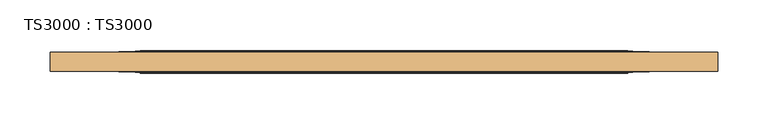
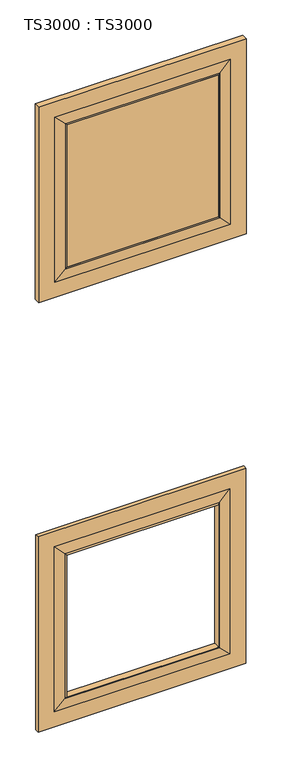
"""IFC4 building model written with IfcOpenShell, lengths in millimetres: door geometry, TS3000 : TS3000."""

from ifc_helpers import new_model, si_unit, frame, origin, place, context, project, spatial, polyline, ellipse_curve, outline, extrude, source, transform, mapped, element, save
from ifc_brep_helpers import plane_surface, revolved_surface, advanced_brep


def ts3000_ts3000_fb004bbc(model_context):
    return source(origin(), model_context, "Body", "SolidModel", [
        advanced_brep(
        [(787.4, 12.7, 2311.4), (787.4, 12.7, 1655.2333333), (787.4, 31.75, 1655.2333333), (787.4, 31.75, 2311.4), (698.5, 33.3375, 2222.5), (698.5, 33.3375, 1744.1333333), (698.5, 11.1125, 1744.1333333), (698.5, 11.1125, 2222.5), (127.0, 12.7, 1655.2333333), (127.0, 31.75, 1655.2333333), (215.9, 33.3375, 1744.1333333), (215.9, 11.1125, 1744.1333333), (127.0, 12.7, 2311.4), (127.0, 31.75, 2311.4), (215.9, 33.3375, 2222.5), (215.9, 11.1125, 2222.5), (736.6, 31.75, 1706.0333333), (736.6, 31.75, 2260.6), (177.8, 31.75, 2260.6), (177.8, 31.75, 1706.0333333), (736.6, 12.7, 2260.6), (736.6, 12.7, 1706.0333333), (177.8, 12.7, 1706.0333333), (177.8, 12.7, 2260.6), (703.2625, 32.54375, 1739.3708333), (703.2625, 32.54375, 2227.2625), (211.1375, 32.54375, 1739.3708333), (211.1375, 32.54375, 2227.2625), (703.2625, 11.90625, 2227.2625), (703.2625, 11.90625, 1739.3708333), (211.1375, 11.90625, 1739.3708333), (211.1375, 11.90625, 2227.2625)],
        [
            (0, 1),
            (1, 2),
            (2, 3),
            (3, 0),
            (4, 5),
            (5, 6),
            (6, 7),
            (7, 4),
            (1, 8),
            (8, 9),
            (9, 2),
            (5, 10),
            (10, 11),
            (11, 6),
            (8, 12),
            (12, 13),
            (13, 9),
            (10, 14),
            (14, 15),
            (15, 11),
            (13, 3),
            (16, 17),
            (17, 18),
            (18, 19),
            (19, 16),
            (12, 0),
            (20, 21),
            (21, 22),
            (22, 23),
            (23, 20),
            (14, 4),
            (7, 15),
            (16, 24),
            (24, 25),
            (25, 17),
            (19, 26),
            (26, 24),
            (18, 27),
            (27, 26),
            (25, 27),
            (28, 29),
            (29, 21),
            (20, 28),
            (6, 29, ellipse_curve(frame((703.7585938, -5.7546875, 1738.8747396), z_axis=(-0.7071067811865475, 0.0, -0.7071067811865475), x_axis=(0.7071067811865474, 0.0, -0.7071067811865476)), 24.9861891, 17.6679037)),
            (28, 7, ellipse_curve(frame((703.7585938, -5.7546875, 2227.7585938), z_axis=(-0.7071067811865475, 0.0, 0.7071067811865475), x_axis=(-0.7071067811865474, 0.0, -0.7071067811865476)), 24.9861891, 17.6679037)),
            (24, 5, ellipse_curve(frame((703.7585938, 50.2046875, 1738.8747396), z_axis=(-0.7071067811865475, 0.0, -0.7071067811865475), x_axis=(0.7071067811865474, 0.0, -0.7071067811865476)), 24.9861891, 17.6679037)),
            (4, 25, ellipse_curve(frame((703.7585938, 50.2046875, 2227.7585938), z_axis=(-0.7071067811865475, 0.0, 0.7071067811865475), x_axis=(-0.7071067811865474, 0.0, -0.7071067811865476)), 24.9861891, 17.6679037)),
            (29, 30),
            (30, 22),
            (11, 30, ellipse_curve(frame((210.6414063, -5.7546875, 1738.8747396), z_axis=(-0.7071067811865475, 0.0, 0.7071067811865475), x_axis=(-0.7071067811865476, 0.0, -0.7071067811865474)), 24.9861891, 17.6679037)),
            (26, 10, ellipse_curve(frame((210.6414063, 50.2046875, 1738.8747396), z_axis=(-0.7071067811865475, 0.0, 0.7071067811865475), x_axis=(-0.7071067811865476, 0.0, -0.7071067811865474)), 24.9861891, 17.6679037)),
            (30, 31),
            (31, 23),
            (15, 31, ellipse_curve(frame((210.6414063, -5.7546875, 2227.7585938), z_axis=(0.7071067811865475, 0.0, 0.7071067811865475), x_axis=(-0.7071067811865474, 0.0, 0.7071067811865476)), 24.9861891, 17.6679037)),
            (27, 14, ellipse_curve(frame((210.6414063, 50.2046875, 2227.7585938), z_axis=(0.7071067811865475, 0.0, 0.7071067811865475), x_axis=(-0.7071067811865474, 0.0, 0.7071067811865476)), 24.9861891, 17.6679037)),
            (31, 28),
        ],
        [
            plane_surface(frame((787.4, 31.75, 2311.4), z_axis=(1.0, 0.0, 0.0), x_axis=(0.0, 0.0, -1.0))),
            plane_surface(frame((698.5, 11.1125, 2222.5), z_axis=(-1.0, 0.0, 0.0), x_axis=(0.0, 0.0, -1.0))),
            plane_surface(frame((787.4, 31.75, 1655.2333333), z_axis=(0.0, 0.0, -1.0), x_axis=(-1.0, 0.0, 0.0))),
            plane_surface(frame((698.5, 11.1125, 1744.1333333), z_axis=(0.0, 0.0, 1.0), x_axis=(-1.0, 0.0, 0.0))),
            plane_surface(frame((127.0, 31.75, 1655.2333333), z_axis=(-1.0, 0.0, 0.0), x_axis=(0.0, 0.0, 1.0))),
            plane_surface(frame((215.9, 11.1125, 1744.1333333), z_axis=(1.0, 0.0, 0.0), x_axis=(0.0, 0.0, 1.0))),
            plane_surface(frame((177.8, 31.75, 2260.6), z_axis=(0.0, 1.0, 0.0), x_axis=(1.0, 0.0, 0.0))),
            plane_surface(frame((127.0, 31.75, 2311.4), z_axis=(0.0, 0.0, 1.0), x_axis=(1.0, 0.0, 0.0))),
            plane_surface(frame((127.0, 12.7, 2311.4), z_axis=(0.0, -1.0, 0.0), x_axis=(1.0, 0.0, 0.0))),
            plane_surface(frame((215.9, 11.1125, 2222.5), z_axis=(0.0, 0.0, -1.0), x_axis=(1.0, 0.0, 0.0))),
            plane_surface(frame((703.2625, 32.54375, 2227.2625), z_axis=(0.023802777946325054, 0.9997166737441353, 0.0), x_axis=(0.0, 0.0, -1.0))),
            plane_surface(frame((703.2625, 32.54375, 1739.3708333), z_axis=(0.0, 0.9997166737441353, -0.02380277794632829), x_axis=(-1.0, 0.0, 0.0))),
            plane_surface(frame((211.1375, 32.54375, 1739.3708333), z_axis=(-0.023802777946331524, 0.9997166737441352, 0.0), x_axis=(0.0, 0.0, 1.0))),
            plane_surface(frame((211.1375, 32.54375, 2227.2625), z_axis=(0.0, 0.9997166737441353, 0.02380277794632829), x_axis=(1.0, 0.0, 0.0))),
            plane_surface(frame((736.6, 12.7, 2260.6), z_axis=(0.023802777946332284, -0.9997166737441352, 0.0), x_axis=(0.0, 0.0, -1.0))),
            revolved_surface(polyline([(686.0906901, -5.7546875, 1721.2068358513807), (686.0906901, -5.7546875, 2245.4264975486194)]), (703.7585938, -5.7546875, 2222.5), (0.0, 0.0, -1.0)),
            revolved_surface(polyline([(686.0906901, 50.2046875, 1721.2068358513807), (686.0906901, 50.2046875, 2245.4264975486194)]), (703.7585938, 50.2046875, 2222.5), (0.0, 0.0, -1.0)),
            plane_surface(frame((736.6, 12.7, 1706.0333333), z_axis=(0.0, -0.9997166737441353, -0.02380277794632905), x_axis=(-1.0, 0.0, 0.0))),
            revolved_surface(polyline([(192.9735025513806, -5.7546875, 1756.5426433), (721.4264975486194, -5.7546875, 1756.5426433)]), (698.5, -5.7546875, 1738.8747396), (-1.0, 0.0, 0.0)),
            revolved_surface(polyline([(192.9735025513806, 50.2046875, 1756.5426433), (721.4264975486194, 50.2046875, 1756.5426433)]), (698.5, 50.2046875, 1738.8747396), (-1.0, 0.0, 0.0)),
            plane_surface(frame((177.8, 12.7, 1706.0333333), z_axis=(-0.023802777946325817, -0.9997166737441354, 0.0), x_axis=(0.0, 0.0, 1.0))),
            revolved_surface(polyline([(228.30931, -5.7546875, 2245.4264975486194), (228.30931, -5.7546875, 1721.2068358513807)]), (210.6414063, -5.7546875, 1744.1333333), (0.0, 0.0, 1.0)),
            revolved_surface(polyline([(228.30931, 50.2046875, 2245.4264975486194), (228.30931, 50.2046875, 1721.2068358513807)]), (210.6414063, 50.2046875, 1744.1333333), (0.0, 0.0, 1.0)),
            plane_surface(frame((177.8, 12.7, 2260.6), z_axis=(0.0, -0.9997166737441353, 0.02380277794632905), x_axis=(1.0, 0.0, 0.0))),
            revolved_surface(polyline([(721.4264975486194, -5.7546875, 2210.0906901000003), (192.9735025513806, -5.7546875, 2210.0906901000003)]), (215.9, -5.7546875, 2227.7585938), (1.0, 0.0, 0.0)),
            revolved_surface(polyline([(721.4264975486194, 50.2046875, 2210.0906901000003), (192.9735025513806, 50.2046875, 2210.0906901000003)]), (215.9, 50.2046875, 2227.7585938), (1.0, 0.0, 0.0)),
        ],
        [
            (0, [[1, 2, 3, 4]]),
            (1, [[5, 6, 7, 8]]),
            (2, [[9, 10, 11, -2]]),
            (3, [[12, 13, 14, -6]]),
            (4, [[15, 16, 17, -10]]),
            (5, [[18, 19, 20, -13]]),
            (6, [[-3, -11, -17, 21], [22, 23, 24, 25]]),
            (7, [[26, -4, -21, -16]]),
            (8, [[-1, -26, -15, -9], [27, 28, 29, 30]]),
            (9, [[31, -8, 32, -19]]),
            (10, [[-22, 33, 34, 35]]),
            (11, [[-25, 36, 37, -33]]),
            (12, [[-24, 38, 39, -36]]),
            (13, [[-23, -35, 40, -38]]),
            (14, [[41, 42, -27, 43]]),
            (15, [[-7, 44, -41, 45]]),
            (16, [[-34, 46, -5, 47]]),
            (17, [[48, 49, -28, -42]]),
            (18, [[-14, 50, -48, -44]]),
            (19, [[-37, 51, -12, -46]]),
            (20, [[52, 53, -29, -49]]),
            (21, [[-20, 54, -52, -50]]),
            (22, [[-39, 55, -18, -51]]),
            (23, [[56, -43, -30, -53]]),
            (24, [[-32, -45, -56, -54]]),
            (25, [[-40, -47, -31, -55]]),
        ],
    ),
        advanced_brep(
        [(787.4, 15.875, 865.7166667), (787.4, 15.875, 209.55), (787.4, 28.575, 209.55), (787.4, 28.575, 865.7166667), (698.5, 33.3375, 776.8166667), (698.5, 33.3375, 298.45), (698.5, 11.1125, 298.45), (698.5, 11.1125, 776.8166667), (127.0, 15.875, 209.55), (127.0, 28.575, 209.55), (215.9, 33.3375, 298.45), (215.9, 11.1125, 298.45), (127.0, 15.875, 865.7166667), (127.0, 28.575, 865.7166667), (215.9, 33.3375, 776.8166667), (215.9, 11.1125, 776.8166667), (736.6, 28.575, 260.35), (736.6, 28.575, 814.9166667), (177.8, 28.575, 814.9166667), (177.8, 28.575, 260.35), (736.6, 15.875, 814.9166667), (736.6, 15.875, 260.35), (177.8, 15.875, 260.35), (177.8, 15.875, 814.9166667), (703.2625, 30.95625, 293.6875), (703.2625, 30.95625, 781.5791667), (211.1375, 30.95625, 293.6875), (211.1375, 30.95625, 781.5791667), (703.2625, 13.49375, 781.5791667), (703.2625, 13.49375, 293.6875), (211.1375, 13.49375, 293.6875), (211.1375, 13.49375, 781.5791667)],
        [
            (0, 1),
            (1, 2),
            (2, 3),
            (3, 0),
            (4, 5),
            (5, 6),
            (6, 7),
            (7, 4),
            (1, 8),
            (8, 9),
            (9, 2),
            (5, 10),
            (10, 11),
            (11, 6),
            (8, 12),
            (12, 13),
            (13, 9),
            (10, 14),
            (14, 15),
            (15, 11),
            (13, 3),
            (16, 17),
            (17, 18),
            (18, 19),
            (19, 16),
            (12, 0),
            (20, 21),
            (21, 22),
            (22, 23),
            (23, 20),
            (14, 4),
            (7, 15),
            (16, 24),
            (24, 25),
            (25, 17),
            (19, 26),
            (26, 24),
            (18, 27),
            (27, 26),
            (25, 27),
            (28, 29),
            (29, 21),
            (20, 28),
            (6, 29, ellipse_curve(frame((703.7585938, 6.5484375, 293.1914062), z_axis=(-0.7071067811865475, 0.0, -0.7071067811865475), x_axis=(0.7071067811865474, 0.0, -0.7071067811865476)), 9.8471798, 6.9630076)),
            (28, 7, ellipse_curve(frame((703.7585938, 6.5484375, 782.0752604), z_axis=(-0.7071067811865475, 0.0, 0.7071067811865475), x_axis=(-0.7071067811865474, 0.0, -0.7071067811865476)), 9.8471798, 6.9630076)),
            (24, 5, ellipse_curve(frame((703.7585938, 37.9015625, 293.1914062), z_axis=(-0.7071067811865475, 0.0, -0.7071067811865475), x_axis=(0.7071067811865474, 0.0, -0.7071067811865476)), 9.8471798, 6.9630076)),
            (4, 25, ellipse_curve(frame((703.7585938, 37.9015625, 782.0752604), z_axis=(-0.7071067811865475, 0.0, 0.7071067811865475), x_axis=(-0.7071067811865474, 0.0, -0.7071067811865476)), 9.8471798, 6.9630076)),
            (29, 30),
            (30, 22),
            (11, 30, ellipse_curve(frame((210.6414063, 6.5484375, 293.1914062), z_axis=(-0.7071067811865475, 0.0, 0.7071067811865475), x_axis=(-0.7071067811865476, 0.0, -0.7071067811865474)), 9.8471798, 6.9630076)),
            (26, 10, ellipse_curve(frame((210.6414063, 37.9015625, 293.1914062), z_axis=(-0.7071067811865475, 0.0, 0.7071067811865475), x_axis=(-0.7071067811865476, 0.0, -0.7071067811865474)), 9.8471798, 6.9630076)),
            (30, 31),
            (31, 23),
            (15, 31, ellipse_curve(frame((210.6414063, 6.5484375, 782.0752604), z_axis=(0.7071067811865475, 0.0, 0.7071067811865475), x_axis=(-0.7071067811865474, 0.0, 0.7071067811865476)), 9.8471798, 6.9630076)),
            (27, 14, ellipse_curve(frame((210.6414063, 37.9015625, 782.0752604), z_axis=(0.7071067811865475, 0.0, 0.7071067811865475), x_axis=(-0.7071067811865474, 0.0, 0.7071067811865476)), 9.8471798, 6.9630076)),
            (31, 28),
        ],
        [
            plane_surface(frame((787.4, 28.575, 865.7166667), z_axis=(1.0, 0.0, 0.0), x_axis=(0.0, 0.0, -1.0))),
            plane_surface(frame((698.5, 11.1125, 776.8166667), z_axis=(-1.0, 0.0, 0.0), x_axis=(0.0, 0.0, -1.0))),
            plane_surface(frame((787.4, 28.575, 209.55), z_axis=(0.0, 0.0, -1.0), x_axis=(-1.0, 0.0, 0.0))),
            plane_surface(frame((698.5, 11.1125, 298.45), z_axis=(0.0, 0.0, 1.0), x_axis=(-1.0, 0.0, 0.0))),
            plane_surface(frame((127.0, 28.575, 209.55), z_axis=(-1.0, 0.0, 0.0), x_axis=(0.0, 0.0, 1.0))),
            plane_surface(frame((215.9, 11.1125, 298.45), z_axis=(1.0, 0.0, 0.0), x_axis=(0.0, 0.0, 1.0))),
            plane_surface(frame((177.8, 28.575, 814.9166667), z_axis=(0.0, 1.0, 0.0), x_axis=(1.0, 0.0, 0.0))),
            plane_surface(frame((127.0, 28.575, 865.7166667), z_axis=(0.0, 0.0, 1.0), x_axis=(1.0, 0.0, 0.0))),
            plane_surface(frame((127.0, 15.875, 865.7166667), z_axis=(0.0, -1.0, 0.0), x_axis=(1.0, 0.0, 0.0))),
            plane_surface(frame((215.9, 11.1125, 776.8166667), z_axis=(0.0, 0.0, -1.0), x_axis=(1.0, 0.0, 0.0))),
            plane_surface(frame((703.2625, 30.95625, 781.5791667), z_axis=(0.07124704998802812, 0.9974586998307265, 0.0), x_axis=(0.0, 0.0, -1.0))),
            plane_surface(frame((703.2625, 30.95625, 293.6875), z_axis=(0.0, 0.9974586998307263, -0.07124704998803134), x_axis=(-1.0, 0.0, 0.0))),
            plane_surface(frame((211.1375, 30.95625, 293.6875), z_axis=(-0.07124704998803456, 0.9974586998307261, 0.0), x_axis=(0.0, 0.0, 1.0))),
            plane_surface(frame((211.1375, 30.95625, 781.5791667), z_axis=(0.0, 0.9974586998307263, 0.07124704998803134), x_axis=(1.0, 0.0, 0.0))),
            plane_surface(frame((736.6, 15.875, 814.9166667), z_axis=(0.07124704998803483, -0.9974586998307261, 0.0), x_axis=(0.0, 0.0, -1.0))),
            revolved_surface(polyline([(696.7955862, 6.5484375, 286.2283985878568), (696.7955862, 6.5484375, 789.0382680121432)]), (703.7585938, 6.5484375, 776.8166667), (0.0, 0.0, -1.0)),
            revolved_surface(polyline([(696.7955862, 37.9015625, 286.2283985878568), (696.7955862, 37.9015625, 789.0382680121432)]), (703.7585938, 37.9015625, 776.8166667), (0.0, 0.0, -1.0)),
            plane_surface(frame((736.6, 15.875, 260.35), z_axis=(0.0, -0.9974586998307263, -0.07124704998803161), x_axis=(-1.0, 0.0, 0.0))),
            revolved_surface(polyline([(203.67839868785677, 6.5484375, 300.15441380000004), (710.7216014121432, 6.5484375, 300.15441380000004)]), (698.5, 6.5484375, 293.1914062), (-1.0, 0.0, 0.0)),
            revolved_surface(polyline([(203.67839868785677, 37.9015625, 300.15441380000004), (710.7216014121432, 37.9015625, 300.15441380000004)]), (698.5, 37.9015625, 293.1914062), (-1.0, 0.0, 0.0)),
            plane_surface(frame((177.8, 15.875, 260.35), z_axis=(-0.07124704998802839, -0.9974586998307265, 0.0), x_axis=(0.0, 0.0, 1.0))),
            revolved_surface(polyline([(217.6044139, 6.5484375, 789.0382680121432), (217.6044139, 6.5484375, 286.2283985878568)]), (210.6414063, 6.5484375, 298.45), (0.0, 0.0, 1.0)),
            revolved_surface(polyline([(217.6044139, 37.9015625, 789.0382680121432), (217.6044139, 37.9015625, 286.2283985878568)]), (210.6414063, 37.9015625, 298.45), (0.0, 0.0, 1.0)),
            plane_surface(frame((177.8, 15.875, 814.9166667), z_axis=(0.0, -0.9974586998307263, 0.07124704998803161), x_axis=(1.0, 0.0, 0.0))),
            revolved_surface(polyline([(710.7216014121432, 6.5484375, 775.1122528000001), (203.6783986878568, 6.5484375, 775.1122528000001)]), (215.9, 6.5484375, 782.0752604), (1.0, 0.0, 0.0)),
            revolved_surface(polyline([(710.7216014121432, 37.9015625, 775.1122528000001), (203.6783986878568, 37.9015625, 775.1122528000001)]), (215.9, 37.9015625, 782.0752604), (1.0, 0.0, 0.0)),
        ],
        [
            (0, [[1, 2, 3, 4]]),
            (1, [[5, 6, 7, 8]]),
            (2, [[9, 10, 11, -2]]),
            (3, [[12, 13, 14, -6]]),
            (4, [[15, 16, 17, -10]]),
            (5, [[18, 19, 20, -13]]),
            (6, [[-3, -11, -17, 21], [22, 23, 24, 25]]),
            (7, [[26, -4, -21, -16]]),
            (8, [[-1, -26, -15, -9], [27, 28, 29, 30]]),
            (9, [[31, -8, 32, -19]]),
            (10, [[-22, 33, 34, 35]]),
            (11, [[-25, 36, 37, -33]]),
            (12, [[-24, 38, 39, -36]]),
            (13, [[-23, -35, 40, -38]]),
            (14, [[41, 42, -27, 43]]),
            (15, [[-7, 44, -41, 45]]),
            (16, [[-34, 46, -5, 47]]),
            (17, [[48, 49, -28, -42]]),
            (18, [[-14, 50, -48, -44]]),
            (19, [[-37, 51, -12, -46]]),
            (20, [[52, 53, -29, -49]]),
            (21, [[-20, 54, -52, -50]]),
            (22, [[-39, 55, -18, -51]]),
            (23, [[56, -43, -30, -53]]),
            (24, [[-32, -45, -56, -54]]),
            (25, [[-40, -47, -31, -55]]),
        ],
    ),
        extrude(outline(polyline([(215.9, 11.1125), (215.9, 33.3375), (698.5, 33.3375), (698.5, 11.1125), (215.9, 11.1125)])), frame((0.0, 0.0, 1744.1333333), z_axis=(0.0, 0.0, 1.0), x_axis=(1.0, 0.0, 0.0)), (0.0, 0.0, 1.0), 478.3666667),
    ])


if __name__ == "__main__":
    model = new_model("IFC4")
    model_context = context("Model", 3, world=origin())
    ifc_project = project(units=[si_unit("LENGTHUNIT", "METRE", prefix="MILLI")], contexts=[model_context])
    site = spatial("IfcSite", under=ifc_project)
    building = spatial("IfcBuilding", under=site)
    placement = place(None, origin())
    ts3000_ts3000_shape = ts3000_ts3000_fb004bbc(model_context)
    element("IfcDoor", 1, ObjectType="TS3000 : TS3000", at=placement, inside=building, context=model_context, shape_type="MappedRepresentation", body=[
        mapped(ts3000_ts3000_shape, transform((0.0, 0.0, 0.0), x_axis=(1.0, 0.0, 0.0), y_axis=(0.0, 1.0, 0.0), z_axis=(0.0, 0.0, 1.0))),
    ])
    save(model, "model.ifc")
